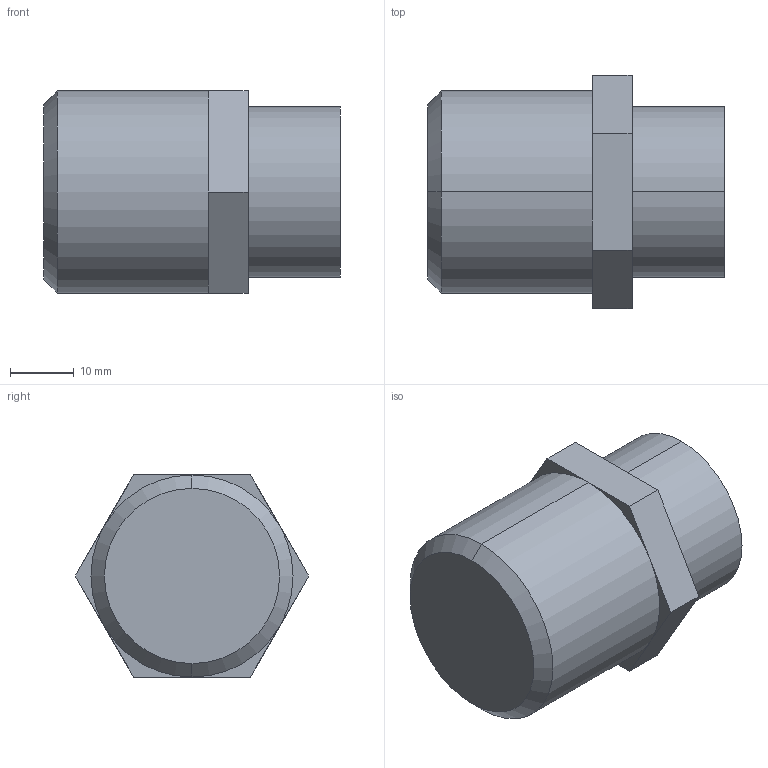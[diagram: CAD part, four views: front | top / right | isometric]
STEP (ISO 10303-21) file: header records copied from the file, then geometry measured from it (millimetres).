
FILE_DESCRIPTION (( 'STEP AP214' ), '1' );
FILE_NAME ('Fitting Weldable 12.STEP', '2012-11-12T18:23:49', ( '' ), ( '' ), 'SwSTEP 2.0', 'SolidWorks 2012', '' );
FILE_SCHEMA (( 'AUTOMOTIVE_DESIGN' ));
Length unit declared in the file: inch
Products named in the file (1): Fitting Weldable 12
Bounding box: 46.58 x 36.66 x 31.75 mm (x, y, z)
Volume: 29372.5 mm3; surface area: 6976.4 mm2
Topology: 1 solids, 1 shells, 24 faces, 50 edges, 30 vertices
Faces by surface type: plane 16, cylinder 6, cone 2
Entity records: 711 total; most frequent: DIRECTION 118, CARTESIAN_POINT 105, ORIENTED_EDGE 100, EDGE_CURVE 50, AXIS2_PLACEMENT_3D 43, LINE 32, VECTOR 32, VERTEX_POINT 30
